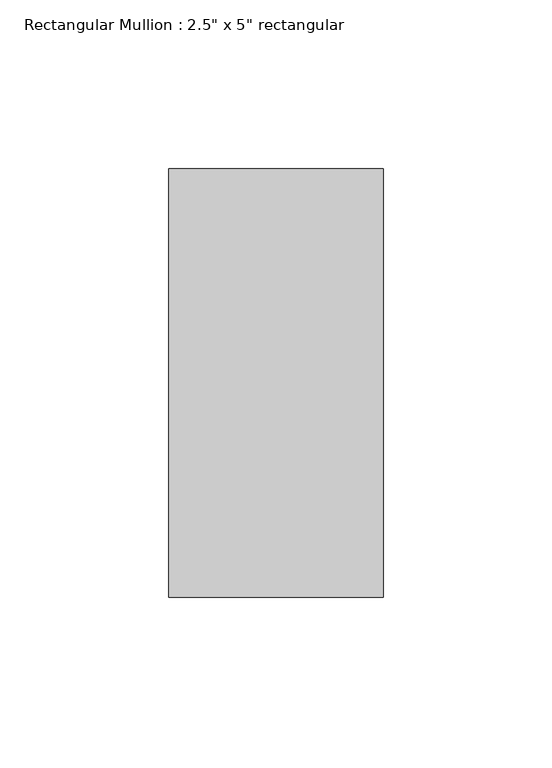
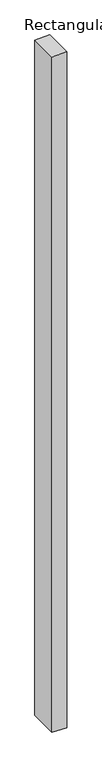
"""IFC4 building model written with IfcOpenShell, lengths in millimetres: member geometry."""

from ifc_helpers import new_model, si_unit, frame, origin, place, context, project, spatial, polyline, outline, extrude, source, transform, mapped, element, save


def member_da5e5371(model_context):
    return source(origin(), model_context, "Body", "SweptSolid", [
        extrude(outline(polyline([(0.0, 0.0), (-1.2488749, -63.5), (-3068.9624829, -63.5), (-3070.0036621, 0.0), (0.0, 0.0)])), frame((0.0, -63.5, 0.0), z_axis=(0.0, 1.0, 0.0), x_axis=(0.0, 0.0, 1.0)), (0.0, 0.0, 1.0), 127.0),
    ])


if __name__ == "__main__":
    model = new_model("IFC4")
    model_context = context("Model", 3, world=origin())
    ifc_project = project(units=[si_unit("LENGTHUNIT", "METRE", prefix="MILLI")], contexts=[model_context])
    site = spatial("IfcSite", under=ifc_project)
    building = spatial("IfcBuilding", under=site)
    placement = place(None, origin())
    member_shape = member_da5e5371(model_context)
    element("IfcMember", 1, ObjectType="Rectangular Mullion : 2.5\" x 5\" rectangular", at=placement, inside=building, context=model_context, shape_type="MappedRepresentation", body=[
        mapped(member_shape, transform((0.0, 0.0, 0.0), x_axis=(1.0, 0.0, 0.0), y_axis=(0.0, 1.0, 0.0), z_axis=(0.0, 0.0, 1.0))),
    ])
    save(model, "model.ifc")
